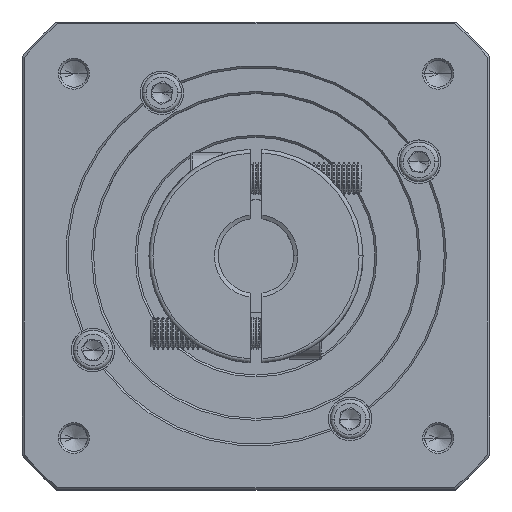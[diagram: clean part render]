
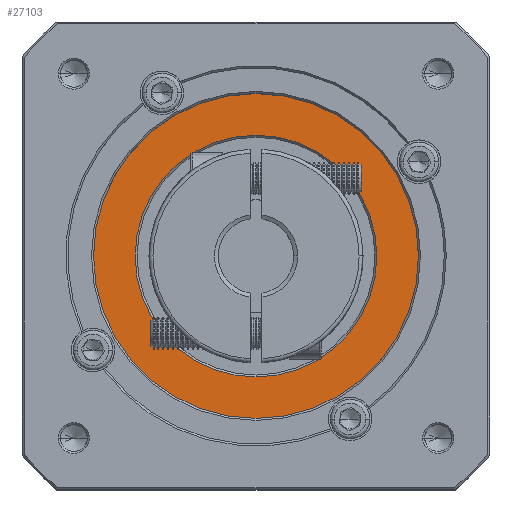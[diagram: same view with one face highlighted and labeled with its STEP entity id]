
A CAD part, top view. The second image highlights one B-rep face of the part: STEP entity #27103.
In plain terms, the highlighted planar face has unit normal (0, 0, 1).
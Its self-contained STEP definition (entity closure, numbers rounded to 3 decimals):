
#2557 = VERTEX_POINT ( 'NONE', #38881 ) ;
#2625 = ORIENTED_EDGE ( 'NONE', *, *, #76450, .T. ) ;
#2650 = DIRECTION ( 'NONE',  ( 0., 0., 1. ) ) ;
#3192 = VERTEX_POINT ( 'NONE', #66691 ) ;
#3529 = CIRCLE ( 'NONE', #94176, 41. ) ;
#3765 = FACE_BOUND ( 'NONE', #45578, .T. ) ;
#4203 = CIRCLE ( 'NONE', #22471, 30.5 ) ;
#6201 = DIRECTION ( 'NONE',  ( 1., 0., 0. ) ) ;
#6644 = DIRECTION ( 'NONE',  ( 0., 0., 1. ) ) ;
#8350 = CARTESIAN_POINT ( 'NONE',  ( 73.348, 138.859, 38.453 ) ) ;
#17353 = DIRECTION ( 'NONE',  ( 0., -1., 0. ) ) ;
#22471 = AXIS2_PLACEMENT_3D ( 'NONE', #8350, #71229, #17353 ) ;
#27103 = ADVANCED_FACE ( 'NONE', ( #72723, #3765 ), #55371, .T. ) ;
#29849 = DIRECTION ( 'NONE',  ( 0., 0., -1. ) ) ;
#30091 = ORIENTED_EDGE ( 'NONE', *, *, #66607, .T. ) ;
#37793 = AXIS2_PLACEMENT_3D ( 'NONE', #83739, #29849, #92802 ) ;
#38881 = CARTESIAN_POINT ( 'NONE',  ( 114.348, 138.859, 38.453 ) ) ;
#39921 = EDGE_CURVE ( 'NONE', #3192, #2557, #101815, .T. ) ;
#45578 = EDGE_LOOP ( 'NONE', ( #101553, #2625 ) ) ;
#46765 = ORIENTED_EDGE ( 'NONE', *, *, #39921, .T. ) ;
#53020 = CARTESIAN_POINT ( 'NONE',  ( 73.348, 169.359, 38.453 ) ) ;
#55371 = PLANE ( 'NONE',  #73201 ) ;
#56546 = CARTESIAN_POINT ( 'NONE',  ( 73.348, 138.859, 38.453 ) ) ;
#59999 = DIRECTION ( 'NONE',  ( 0., 0., 1. ) ) ;
#60436 = CARTESIAN_POINT ( 'NONE',  ( 73.348, 138.859, 38.453 ) ) ;
#65623 = DIRECTION ( 'NONE',  ( 1., 0., 0. ) ) ;
#66607 = EDGE_CURVE ( 'NONE', #2557, #3192, #3529, .T. ) ;
#66691 = CARTESIAN_POINT ( 'NONE',  ( 32.348, 138.859, 38.453 ) ) ;
#69532 = DIRECTION ( 'NONE',  ( 1., 0., 0. ) ) ;
#71229 = DIRECTION ( 'NONE',  ( 0., 0., -1. ) ) ;
#72723 = FACE_OUTER_BOUND ( 'NONE', #77873, .T. ) ;
#73201 = AXIS2_PLACEMENT_3D ( 'NONE', #56546, #2650, #65623 ) ;
#76450 = EDGE_CURVE ( 'NONE', #114896, #77677, #86856, .T. ) ;
#77677 = VERTEX_POINT ( 'NONE', #111416 ) ;
#77873 = EDGE_LOOP ( 'NONE', ( #30091, #46765 ) ) ;
#83739 = CARTESIAN_POINT ( 'NONE',  ( 73.348, 138.859, 38.453 ) ) ;
#86266 = EDGE_CURVE ( 'NONE', #77677, #114896, #4203, .T. ) ;
#86856 = CIRCLE ( 'NONE', #37793, 30.5 ) ;
#92802 = DIRECTION ( 'NONE',  ( 0., -1., 0. ) ) ;
#94176 = AXIS2_PLACEMENT_3D ( 'NONE', #60436, #6644, #69532 ) ;
#101457 = AXIS2_PLACEMENT_3D ( 'NONE', #113945, #59999, #6201 ) ;
#101553 = ORIENTED_EDGE ( 'NONE', *, *, #86266, .T. ) ;
#101815 = CIRCLE ( 'NONE', #101457, 41. ) ;
#111416 = CARTESIAN_POINT ( 'NONE',  ( 73.348, 108.359, 38.453 ) ) ;
#113945 = CARTESIAN_POINT ( 'NONE',  ( 73.348, 138.859, 38.453 ) ) ;
#114896 = VERTEX_POINT ( 'NONE', #53020 ) ;
